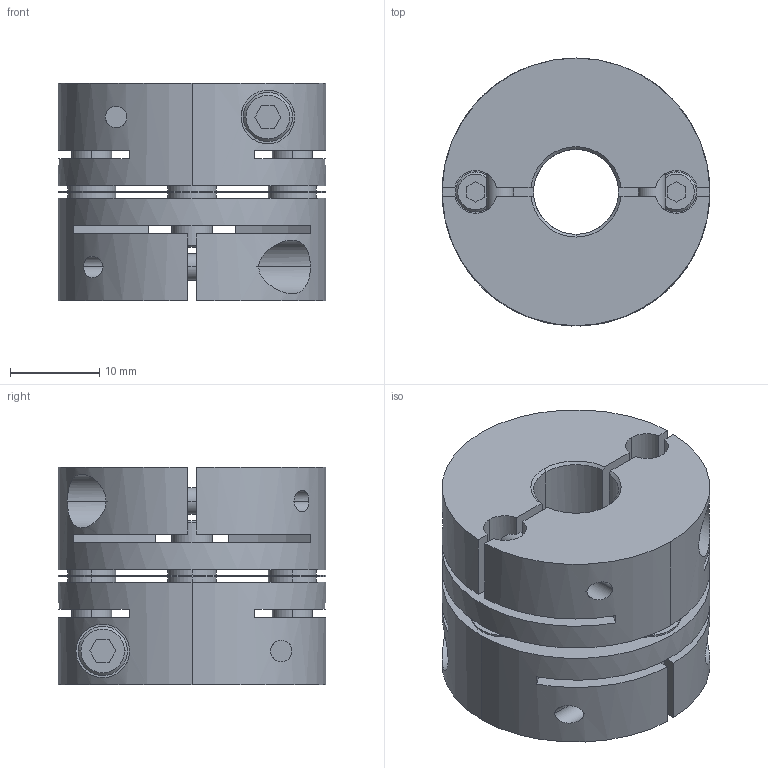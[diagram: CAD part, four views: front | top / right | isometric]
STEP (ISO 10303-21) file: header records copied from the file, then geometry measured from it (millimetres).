
FILE_DESCRIPTION((''),'2;1');
FILE_NAME('LAS-30C-9.525×11.stp','2015-10-14T15:24:02',(''),(''),'AutoCAD STEP 2000i','AutoCAD 2000i',', , ');
FILE_SCHEMA(('CONFIG_CONTROL_DESIGN'));
Length unit declared in the file: millimetre
Products named in the file (6): LAS-30C-6×10; 忣兜1; LA-3002-D10; LA-3002-D06-1; LA-3002-D06; LAS30-ITA
Assembly tree (5 placements, depth 2):
  LAS-30C-6×10
    忣兜1
    LA-3002-D10
    LA-3002-D06-1
    LA-3002-D06
    LAS30-ITA
Bounding box: 30 x 30 x 24.4 mm (x, y, z)
Volume: 12639.9 mm3; surface area: 9085.6 mm2
Topology: 1 solids, 1 shells, 240 faces, 636 edges, 416 vertices
Faces by surface type: plane 112, cylinder 100, cone 28
Entity records: 8333 total; most frequent: CARTESIAN_POINT 2034, DIRECTION 1316, ORIENTED_EDGE 1272, EDGE_CURVE 636, AXIS2_PLACEMENT_3D 482, VERTEX_POINT 416, VECTOR 352, LINE 352
